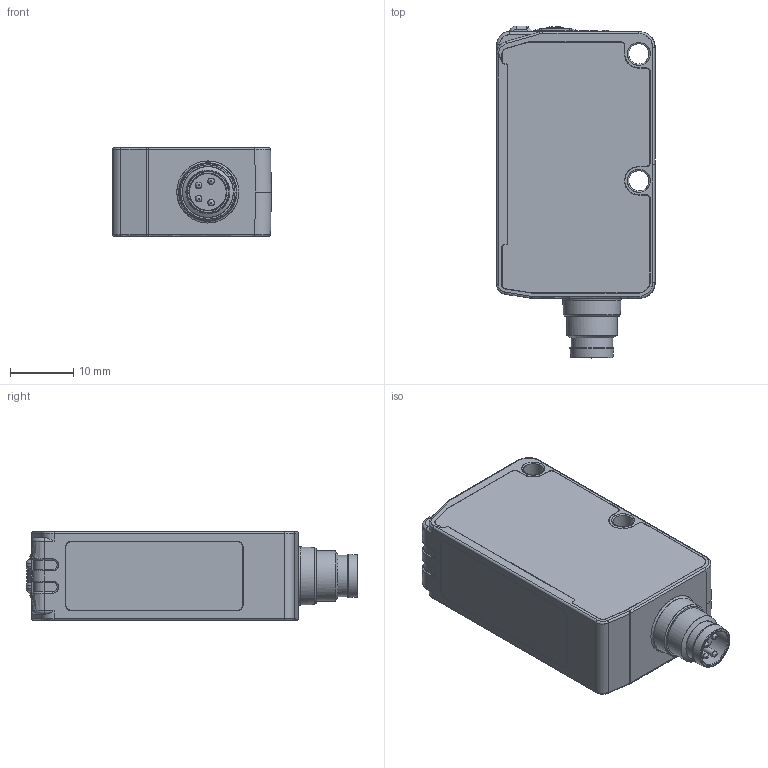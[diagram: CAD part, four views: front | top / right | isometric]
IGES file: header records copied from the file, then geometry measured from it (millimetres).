
Global section: file name: C:\Users\fguttadauro\Desktop\AP016426_00_IGS_DSD-0968_S8-PH-B53-IO_Link.igs; native system: NX V10.0; preprocessor: SIEMENS PLM Software NX 10.0; date: 20190606.120636; units: millimetre
Bounding box: 25 x 52.3 x 14 mm (x, y, z)
Surface area: 9310.2 mm2 (no closed solid volume)
Topology: 0 solids, 0 shells, 449 faces, 2840 edges, 2902 vertices
Faces by surface type: bspline 449
